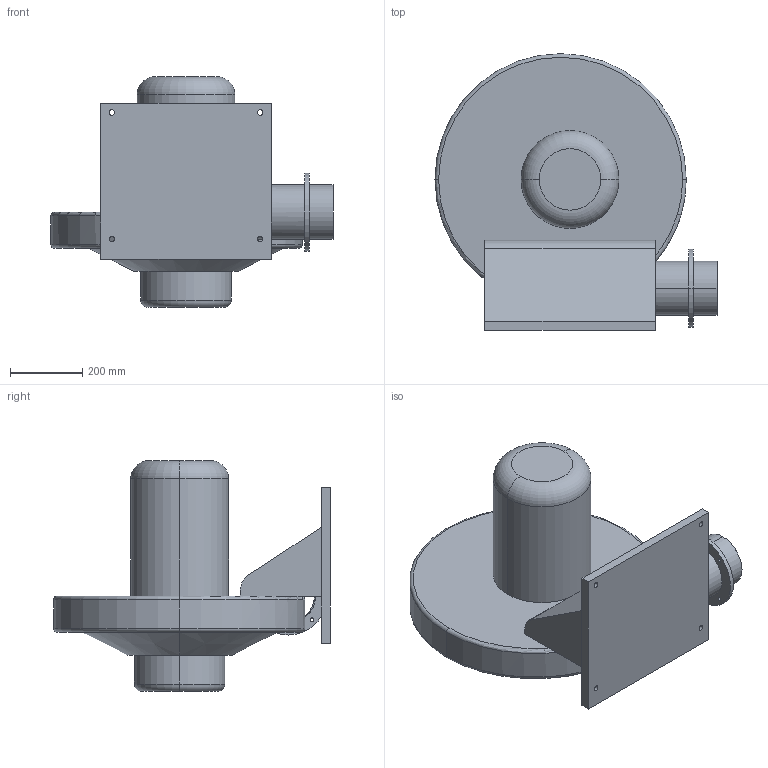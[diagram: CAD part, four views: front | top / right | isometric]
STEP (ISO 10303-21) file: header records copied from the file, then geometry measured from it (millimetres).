
FILE_DESCRIPTION (( 'STEP AP203' ), '1' );
FILE_NAME ('CX-5500.STEP', '2019-04-25T09:05:10', ( 'User' ), ( 'www.dadighost.com' ), 'SwSTEP 2.0', 'SolidWorks 2014', '' );
FILE_SCHEMA (( 'CONFIG_CONTROL_DESIGN' ));
Length unit declared in the file: millimetre
Products named in the file (1): CX-5500
Bounding box: 779 x 763.98 x 637 mm (x, y, z)
Volume: 90290935.6 mm3; surface area: 2546898.2 mm2
Topology: 3 solids, 3 shells, 63 faces, 151 edges, 98 vertices
Faces by surface type: cylinder 31, plane 21, torus 9, cone 2
Entity records: 2132 total; most frequent: CARTESIAN_POINT 483, DIRECTION 357, ORIENTED_EDGE 302, EDGE_CURVE 151, AXIS2_PLACEMENT_3D 148, VERTEX_POINT 98, EDGE_LOOP 85, CIRCLE 84
